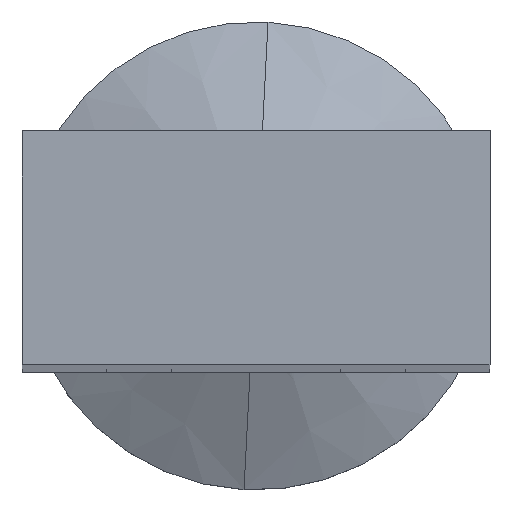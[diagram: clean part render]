
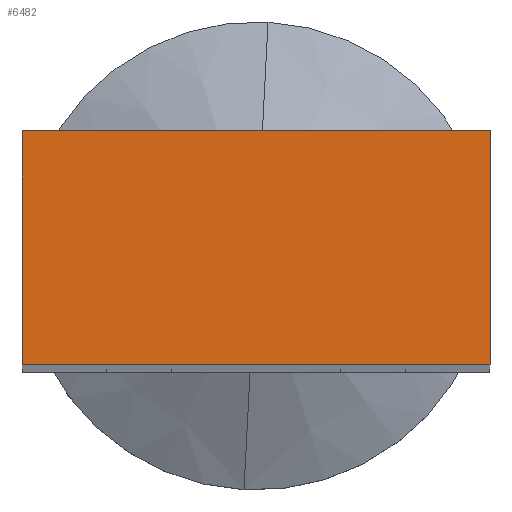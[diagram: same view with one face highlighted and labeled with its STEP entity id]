
A CAD part, top view. The second image highlights one B-rep face of the part: STEP entity #6482.
In plain terms, the highlighted planar face has unit normal (0, 0, 1).
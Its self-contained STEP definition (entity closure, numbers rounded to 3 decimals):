
#33 = EDGE_LOOP ( 'NONE', ( #6678, #4670, #854, #6622 ) ) ;
#188 = LINE ( 'NONE', #7298, #4070 ) ;
#418 = CARTESIAN_POINT ( 'NONE',  ( 1239.065, -1461.447, 2668.82 ) ) ;
#618 = EDGE_CURVE ( 'NONE', #1721, #6152, #3489, .T. ) ;
#847 = CARTESIAN_POINT ( 'NONE',  ( 1289.065, -1411.447, 2668.82 ) ) ;
#854 = ORIENTED_EDGE ( 'NONE', *, *, #1528, .T. ) ;
#1193 = DIRECTION ( 'NONE',  ( -1., 0., 0. ) ) ;
#1528 = EDGE_CURVE ( 'NONE', #6152, #10057, #2600, .T. ) ;
#1721 = VERTEX_POINT ( 'NONE', #7195 ) ;
#1826 = DIRECTION ( 'NONE',  ( 0., 1., 0. ) ) ;
#2185 = CARTESIAN_POINT ( 'NONE',  ( 1239.065, -1411.447, 2668.82 ) ) ;
#2600 = LINE ( 'NONE', #5749, #3357 ) ;
#3134 = LINE ( 'NONE', #2185, #6340 ) ;
#3357 = VECTOR ( 'NONE', #1826, 1000. ) ;
#3383 = AXIS2_PLACEMENT_3D ( 'NONE', #9156, #8277, #1193 ) ;
#3489 = LINE ( 'NONE', #418, #7696 ) ;
#4070 = VECTOR ( 'NONE', #4978, 1000. ) ;
#4670 = ORIENTED_EDGE ( 'NONE', *, *, #618, .T. ) ;
#4978 = DIRECTION ( 'NONE',  ( 0., -1., 0. ) ) ;
#5113 = PLANE ( 'NONE',  #3383 ) ;
#5286 = DIRECTION ( 'NONE',  ( -1., 0., 0. ) ) ;
#5749 = CARTESIAN_POINT ( 'NONE',  ( 1289.065, -1411.447, 2668.82 ) ) ;
#6138 = EDGE_CURVE ( 'NONE', #9217, #1721, #188, .T. ) ;
#6152 = VERTEX_POINT ( 'NONE', #8728 ) ;
#6340 = VECTOR ( 'NONE', #5286, 1000. ) ;
#6482 = ADVANCED_FACE ( 'NONE', ( #9926 ), #5113, .T. ) ;
#6622 = ORIENTED_EDGE ( 'NONE', *, *, #8845, .T. ) ;
#6678 = ORIENTED_EDGE ( 'NONE', *, *, #6138, .T. ) ;
#6710 = DIRECTION ( 'NONE',  ( 1., 0., 0. ) ) ;
#7195 = CARTESIAN_POINT ( 'NONE',  ( 1189.065, -1461.447, 2668.82 ) ) ;
#7298 = CARTESIAN_POINT ( 'NONE',  ( 1189.065, -1461.447, 2668.82 ) ) ;
#7696 = VECTOR ( 'NONE', #6710, 1000. ) ;
#8277 = DIRECTION ( 'NONE',  ( 0., 0., 1. ) ) ;
#8728 = CARTESIAN_POINT ( 'NONE',  ( 1289.065, -1461.447, 2668.82 ) ) ;
#8845 = EDGE_CURVE ( 'NONE', #10057, #9217, #3134, .T. ) ;
#9156 = CARTESIAN_POINT ( 'NONE',  ( 1214.065, -1436.447, 2668.82 ) ) ;
#9217 = VERTEX_POINT ( 'NONE', #10204 ) ;
#9926 = FACE_OUTER_BOUND ( 'NONE', #33, .T. ) ;
#10057 = VERTEX_POINT ( 'NONE', #847 ) ;
#10204 = CARTESIAN_POINT ( 'NONE',  ( 1189.065, -1411.447, 2668.82 ) ) ;
